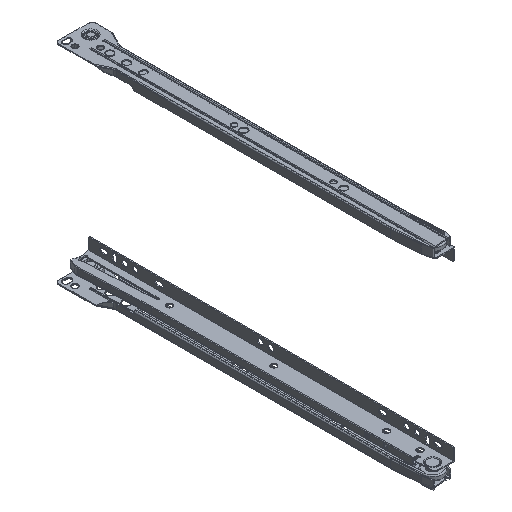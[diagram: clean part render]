
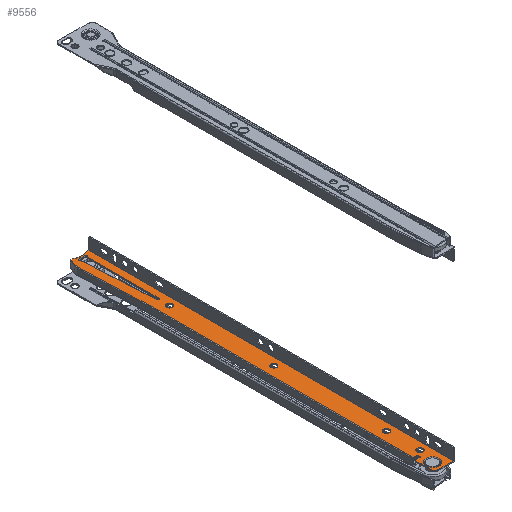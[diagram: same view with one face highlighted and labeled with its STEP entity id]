
A CAD part, isometric view. The second image highlights one B-rep face of the part: STEP entity #9556.
In plain terms, the highlighted planar face has unit normal (0, 0, 1) as drawn and (0, 0, -1) by its records, which use the part's own axes.
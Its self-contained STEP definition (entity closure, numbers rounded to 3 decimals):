
#451=ELLIPSE('',#10430,4.383,1.);
#915=LINE('',#15626,#1704);
#932=LINE('',#15692,#1721);
#949=LINE('',#15753,#1738);
#952=LINE('',#15765,#1741);
#957=LINE('',#15774,#1746);
#959=LINE('',#15781,#1748);
#960=LINE('',#15785,#1749);
#961=LINE('',#15789,#1750);
#962=LINE('',#15793,#1751);
#963=LINE('',#15795,#1752);
#964=LINE('',#15796,#1753);
#965=LINE('',#15809,#1754);
#966=LINE('',#15812,#1755);
#1704=VECTOR('',#12402,10.);
#1721=VECTOR('',#12459,10.);
#1738=VECTOR('',#12522,10.);
#1741=VECTOR('',#12537,10.);
#1746=VECTOR('',#12548,10.);
#1748=VECTOR('',#12556,10.);
#1749=VECTOR('',#12559,10.);
#1750=VECTOR('',#12562,10.);
#1751=VECTOR('',#12565,10.);
#1752=VECTOR('',#12566,10.);
#1753=VECTOR('',#12567,10.);
#1754=VECTOR('',#12578,10.);
#1755=VECTOR('',#12581,10.);
#2204=PLANE('',#10420);
#2414=FACE_BOUND('',#3516,.T.);
#2415=FACE_BOUND('',#3517,.T.);
#2416=FACE_BOUND('',#3518,.T.);
#2417=FACE_BOUND('',#3519,.T.);
#2418=FACE_BOUND('',#3520,.T.);
#2419=FACE_BOUND('',#3521,.T.);
#2862=FACE_OUTER_BOUND('',#3515,.T.);
#3515=EDGE_LOOP('',(#7987,#7988,#7989,#7990,#7991,#7992,#7993,#7994,#7995,
#7996,#7997,#7998,#7999,#8000,#8001,#8002,#8003));
#3516=EDGE_LOOP('',(#8004));
#3517=EDGE_LOOP('',(#8005));
#3518=EDGE_LOOP('',(#8006));
#3519=EDGE_LOOP('',(#8007));
#3520=EDGE_LOOP('',(#8008));
#3521=EDGE_LOOP('',(#8009,#8010,#8011,#8012));
#4036=CIRCLE('',#10369,2.75);
#4038=CIRCLE('',#10372,17.5);
#4064=CIRCLE('',#10414,9.5);
#4065=CIRCLE('',#10421,1.);
#4066=CIRCLE('',#10422,1.);
#4067=CIRCLE('',#10423,1.);
#4068=CIRCLE('',#10424,3.);
#4069=CIRCLE('',#10425,2.75);
#4070=CIRCLE('',#10426,2.75);
#4071=CIRCLE('',#10427,6.25);
#4072=CIRCLE('',#10428,2.75);
#4073=CIRCLE('',#10429,1.03);
#4731=VERTEX_POINT('',#15597);
#4741=VERTEX_POINT('',#15624);
#4743=VERTEX_POINT('',#15630);
#4744=VERTEX_POINT('',#15633);
#4747=VERTEX_POINT('',#15638);
#4770=VERTEX_POINT('',#15690);
#4791=VERTEX_POINT('',#15752);
#4794=VERTEX_POINT('',#15759);
#4795=VERTEX_POINT('',#15772);
#4796=VERTEX_POINT('',#15778);
#4797=VERTEX_POINT('',#15780);
#4798=VERTEX_POINT('',#15782);
#4799=VERTEX_POINT('',#15784);
#4800=VERTEX_POINT('',#15786);
#4801=VERTEX_POINT('',#15788);
#4802=VERTEX_POINT('',#15790);
#4803=VERTEX_POINT('',#15792);
#4804=VERTEX_POINT('',#15794);
#4805=VERTEX_POINT('',#15797);
#4806=VERTEX_POINT('',#15799);
#4807=VERTEX_POINT('',#15801);
#4808=VERTEX_POINT('',#15803);
#4809=VERTEX_POINT('',#15805);
#4810=VERTEX_POINT('',#15806);
#4811=VERTEX_POINT('',#15808);
#4812=VERTEX_POINT('',#15810);
#5862=EDGE_CURVE('',#4731,#4741,#915,.T.);
#5864=EDGE_CURVE('',#4743,#4743,#4036,.T.);
#5868=EDGE_CURVE('',#4747,#4744,#4038,.T.);
#5895=EDGE_CURVE('',#4770,#4747,#932,.T.);
#5924=EDGE_CURVE('',#4791,#4731,#949,.T.);
#5929=EDGE_CURVE('',#4794,#4791,#4064,.T.);
#5931=EDGE_CURVE('',#4770,#4794,#952,.T.);
#5936=EDGE_CURVE('',#4795,#4741,#957,.T.);
#5938=EDGE_CURVE('',#4796,#4795,#4065,.T.);
#5939=EDGE_CURVE('',#4797,#4796,#959,.T.);
#5940=EDGE_CURVE('',#4798,#4797,#4066,.T.);
#5941=EDGE_CURVE('',#4799,#4798,#960,.T.);
#5942=EDGE_CURVE('',#4800,#4799,#4067,.T.);
#5943=EDGE_CURVE('',#4801,#4800,#961,.T.);
#5944=EDGE_CURVE('',#4802,#4801,#4068,.T.);
#5945=EDGE_CURVE('',#4803,#4802,#962,.T.);
#5946=EDGE_CURVE('',#4804,#4803,#963,.T.);
#5947=EDGE_CURVE('',#4744,#4804,#964,.T.);
#5948=EDGE_CURVE('',#4805,#4805,#4069,.T.);
#5949=EDGE_CURVE('',#4806,#4806,#4070,.T.);
#5950=EDGE_CURVE('',#4807,#4807,#4071,.T.);
#5951=EDGE_CURVE('',#4808,#4808,#4072,.T.);
#5952=EDGE_CURVE('',#4809,#4810,#4073,.T.);
#5953=EDGE_CURVE('',#4811,#4809,#965,.T.);
#5954=EDGE_CURVE('',#4812,#4811,#451,.T.);
#5955=EDGE_CURVE('',#4810,#4812,#966,.T.);
#7987=ORIENTED_EDGE('',*,*,#5868,.F.);
#7988=ORIENTED_EDGE('',*,*,#5895,.F.);
#7989=ORIENTED_EDGE('',*,*,#5931,.T.);
#7990=ORIENTED_EDGE('',*,*,#5929,.T.);
#7991=ORIENTED_EDGE('',*,*,#5924,.T.);
#7992=ORIENTED_EDGE('',*,*,#5862,.T.);
#7993=ORIENTED_EDGE('',*,*,#5936,.F.);
#7994=ORIENTED_EDGE('',*,*,#5938,.F.);
#7995=ORIENTED_EDGE('',*,*,#5939,.F.);
#7996=ORIENTED_EDGE('',*,*,#5940,.F.);
#7997=ORIENTED_EDGE('',*,*,#5941,.F.);
#7998=ORIENTED_EDGE('',*,*,#5942,.F.);
#7999=ORIENTED_EDGE('',*,*,#5943,.F.);
#8000=ORIENTED_EDGE('',*,*,#5944,.F.);
#8001=ORIENTED_EDGE('',*,*,#5945,.F.);
#8002=ORIENTED_EDGE('',*,*,#5946,.F.);
#8003=ORIENTED_EDGE('',*,*,#5947,.F.);
#8004=ORIENTED_EDGE('',*,*,#5864,.F.);
#8005=ORIENTED_EDGE('',*,*,#5948,.F.);
#8006=ORIENTED_EDGE('',*,*,#5949,.F.);
#8007=ORIENTED_EDGE('',*,*,#5950,.F.);
#8008=ORIENTED_EDGE('',*,*,#5951,.F.);
#8009=ORIENTED_EDGE('',*,*,#5952,.F.);
#8010=ORIENTED_EDGE('',*,*,#5953,.F.);
#8011=ORIENTED_EDGE('',*,*,#5954,.F.);
#8012=ORIENTED_EDGE('',*,*,#5955,.F.);
#9556=ADVANCED_FACE('',(#2862,#2414,#2415,#2416,#2417,#2418,#2419),#2204,
 .T.);
#10369=AXIS2_PLACEMENT_3D('',#15631,#12407,#12408);
#10372=AXIS2_PLACEMENT_3D('',#15640,#12415,#12416);
#10414=AXIS2_PLACEMENT_3D('',#15762,#12532,#12533);
#10420=AXIS2_PLACEMENT_3D('',#15777,#12552,#12553);
#10421=AXIS2_PLACEMENT_3D('',#15779,#12554,#12555);
#10422=AXIS2_PLACEMENT_3D('',#15783,#12557,#12558);
#10423=AXIS2_PLACEMENT_3D('',#15787,#12560,#12561);
#10424=AXIS2_PLACEMENT_3D('',#15791,#12563,#12564);
#10425=AXIS2_PLACEMENT_3D('',#15798,#12568,#12569);
#10426=AXIS2_PLACEMENT_3D('',#15800,#12570,#12571);
#10427=AXIS2_PLACEMENT_3D('',#15802,#12572,#12573);
#10428=AXIS2_PLACEMENT_3D('',#15804,#12574,#12575);
#10429=AXIS2_PLACEMENT_3D('',#15807,#12576,#12577);
#10430=AXIS2_PLACEMENT_3D('',#15811,#12579,#12580);
#12402=DIRECTION('',(-1.,0.,0.));
#12407=DIRECTION('center_axis',(0.,0.,-1.));
#12408=DIRECTION('ref_axis',(-1.,0.,0.));
#12415=DIRECTION('center_axis',(0.,0.,-1.));
#12416=DIRECTION('ref_axis',(-1.,0.,0.));
#12459=DIRECTION('',(0.,1.,0.));
#12522=DIRECTION('',(-0.999,0.04,0.));
#12532=DIRECTION('center_axis',(0.,0.,-1.));
#12533=DIRECTION('ref_axis',(0.141,-0.99,0.));
#12537=DIRECTION('',(-0.948,-0.318,0.));
#12548=DIRECTION('',(0.,-1.,0.));
#12552=DIRECTION('center_axis',(0.,0.,-1.));
#12553=DIRECTION('ref_axis',(1.,0.,0.));
#12554=DIRECTION('center_axis',(0.,0.,-1.));
#12555=DIRECTION('ref_axis',(0.,1.,0.));
#12556=DIRECTION('',(1.,0.,0.));
#12557=DIRECTION('center_axis',(0.,0.,-1.));
#12558=DIRECTION('ref_axis',(-1.,0.,0.));
#12559=DIRECTION('',(0.,1.,0.));
#12560=DIRECTION('center_axis',(0.,0.,1.));
#12561=DIRECTION('ref_axis',(-1.,0.,0.));
#12562=DIRECTION('',(1.,0.,0.));
#12563=DIRECTION('center_axis',(0.,0.,1.));
#12564=DIRECTION('ref_axis',(0.,1.,0.));
#12565=DIRECTION('',(0.,-1.,0.));
#12566=DIRECTION('',(-1.,0.,0.));
#12567=DIRECTION('',(0.,1.,0.));
#12568=DIRECTION('center_axis',(0.,0.,-1.));
#12569=DIRECTION('ref_axis',(-1.,0.,0.));
#12570=DIRECTION('center_axis',(0.,0.,-1.));
#12571=DIRECTION('ref_axis',(-1.,0.,0.));
#12572=DIRECTION('center_axis',(0.,0.,-1.));
#12573=DIRECTION('ref_axis',(-1.,0.,0.));
#12574=DIRECTION('center_axis',(0.,0.,-1.));
#12575=DIRECTION('ref_axis',(-1.,0.,0.));
#12576=DIRECTION('center_axis',(0.,0.,-1.));
#12577=DIRECTION('ref_axis',(1.,-0.03,0.));
#12578=DIRECTION('',(-0.998,0.061,0.));
#12579=DIRECTION('center_axis',(0.,0.,-1.));
#12580=DIRECTION('ref_axis',(-0.03,-1.,0.));
#12581=DIRECTION('',(1.,0.,0.));
#15597=CARTESIAN_POINT('',(243.766,-28.491,0.));
#15624=CARTESIAN_POINT('',(-9.244,-28.491,0.));
#15626=CARTESIAN_POINT('',(66.644,-28.491,0.));
#15630=CARTESIAN_POINT('',(-3.494,-18.991,0.));
#15631=CARTESIAN_POINT('Origin',(-6.244,-18.991,0.));
#15633=CARTESIAN_POINT('',(318.756,-12.193,0.));
#15638=CARTESIAN_POINT('',(318.756,-26.737,0.));
#15640=CARTESIAN_POINT('Origin',(334.674,-19.465,0.));
#15690=CARTESIAN_POINT('',(318.756,-28.464,0.));
#15692=CARTESIAN_POINT('',(318.756,-31.991,0.));
#15752=CARTESIAN_POINT('',(308.941,-31.098,0.));
#15753=CARTESIAN_POINT('',(193.07,-26.463,0.));
#15759=CARTESIAN_POINT('',(312.339,-30.614,0.));
#15762=CARTESIAN_POINT('Origin',(309.321,-21.606,0.));
#15765=CARTESIAN_POINT('',(236.688,-55.957,0.));
#15772=CARTESIAN_POINT('',(-9.244,-24.991,0.));
#15774=CARTESIAN_POINT('',(-9.244,-24.991,0.));
#15777=CARTESIAN_POINT('Origin',(142.531,-20.273,0.));
#15778=CARTESIAN_POINT('',(-10.244,-23.991,0.));
#15779=CARTESIAN_POINT('Origin',(-10.244,-24.991,0.));
#15780=CARTESIAN_POINT('',(-11.244,-23.991,0.));
#15781=CARTESIAN_POINT('',(-11.244,-23.991,0.));
#15782=CARTESIAN_POINT('',(-12.244,-24.991,0.));
#15783=CARTESIAN_POINT('Origin',(-11.244,-24.991,0.));
#15784=CARTESIAN_POINT('',(-12.244,-28.991,0.));
#15785=CARTESIAN_POINT('',(-12.244,-28.991,0.));
#15786=CARTESIAN_POINT('',(-13.244,-29.991,0.));
#15787=CARTESIAN_POINT('Origin',(-13.244,-28.991,0.));
#15788=CARTESIAN_POINT('',(-28.244,-29.991,0.));
#15789=CARTESIAN_POINT('',(-28.244,-29.991,0.));
#15790=CARTESIAN_POINT('',(-31.244,-26.991,0.));
#15791=CARTESIAN_POINT('Origin',(-28.244,-26.991,0.));
#15792=CARTESIAN_POINT('',(-31.244,-11.991,0.));
#15793=CARTESIAN_POINT('',(-31.244,-10.991,0.));
#15794=CARTESIAN_POINT('',(318.756,-11.991,0.));
#15795=CARTESIAN_POINT('',(143.144,-11.991,0.));
#15796=CARTESIAN_POINT('',(318.756,-31.991,0.));
#15797=CARTESIAN_POINT('',(28.506,-18.991,0.));
#15798=CARTESIAN_POINT('Origin',(25.756,-18.991,0.));
#15799=CARTESIAN_POINT('',(136.506,-18.991,0.));
#15800=CARTESIAN_POINT('Origin',(133.756,-18.991,0.));
#15801=CARTESIAN_POINT('',(-15.994,-22.991,0.));
#15802=CARTESIAN_POINT('Origin',(-22.244,-22.991,0.));
#15803=CARTESIAN_POINT('',(236.506,-18.991,0.));
#15804=CARTESIAN_POINT('Origin',(233.756,-18.991,0.));
#15805=CARTESIAN_POINT('',(244.693,-20.049,0.));
#15806=CARTESIAN_POINT('',(244.756,-17.992,0.));
#15807=CARTESIAN_POINT('Origin',(244.756,-19.021,0.));
#15808=CARTESIAN_POINT('',(313.929,-24.249,0.));
#15809=CARTESIAN_POINT('',(228.424,-19.062,0.));
#15810=CARTESIAN_POINT('',(314.119,-17.992,0.));
#15811=CARTESIAN_POINT('Origin',(314.724,-21.142,0.));
#15812=CARTESIAN_POINT('',(193.643,-17.992,0.));
